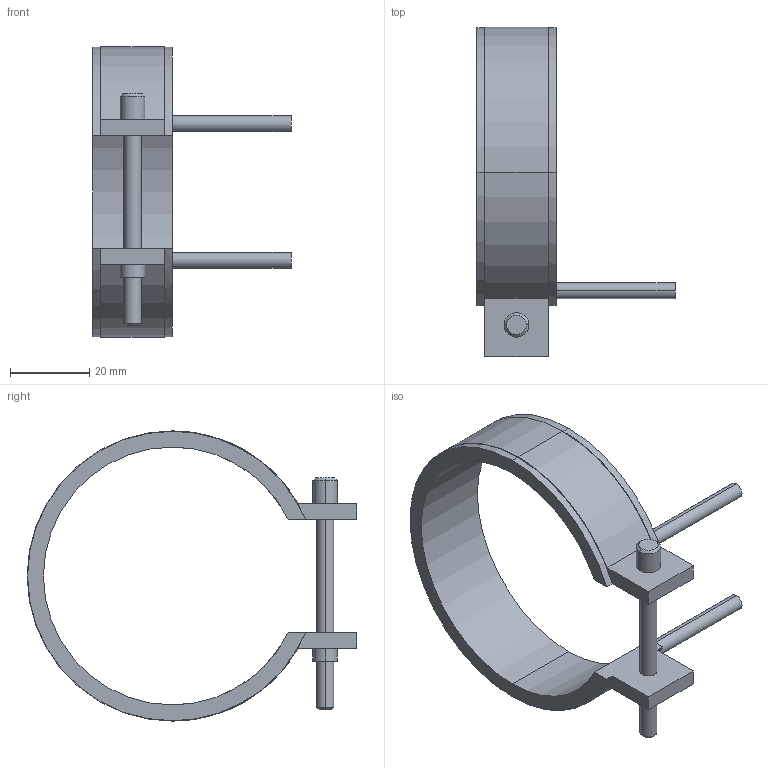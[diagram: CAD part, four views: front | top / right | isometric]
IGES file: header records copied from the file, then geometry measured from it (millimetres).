
Start section: START RECORD GO HERE.
Global section: file name: 14065020.igs; native system: DASSAULT SYSTEMES CATIA V5 R20 - www.3ds.com; preprocessor: CATIA Version 5 Release 20 ; author: Utente; organization: NB04-ASUS; date: 20210403.095901; units: millimetre
Bounding box: 50 x 83.1 x 73.2 mm (x, y, z)
Surface area: 11765.6 mm2 (no closed solid volume)
Topology: 0 solids, 0 shells, 45 faces, 232 edges, 232 vertices
Faces by surface type: revolution 28, plane 17
